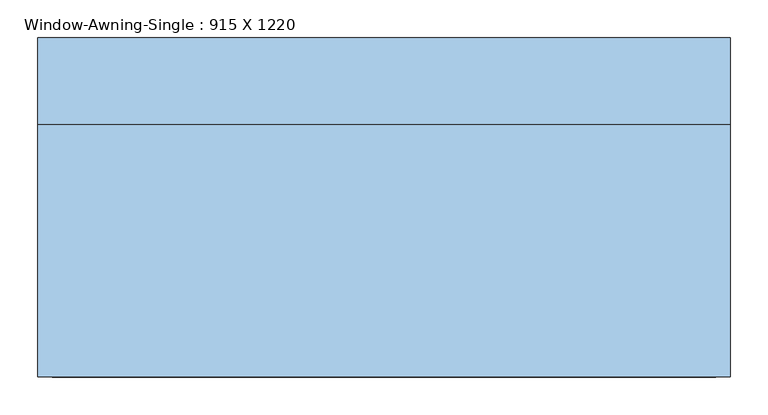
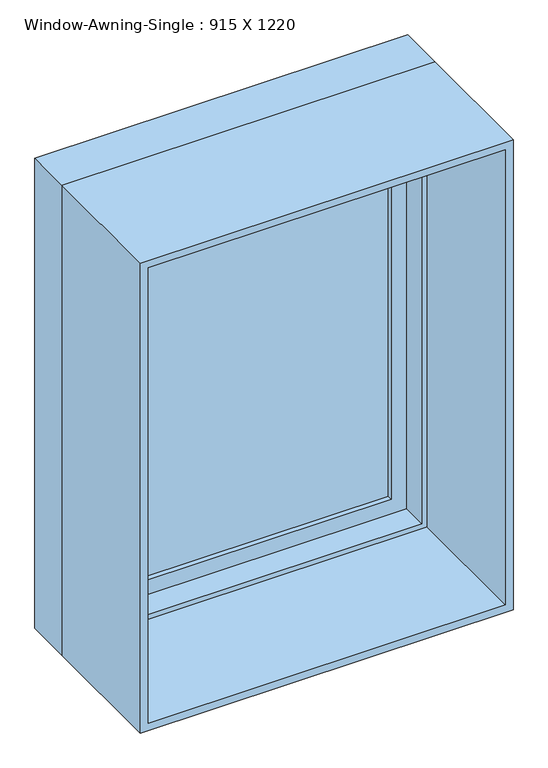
"""IFC4 building model written with IfcOpenShell, lengths in millimetres: window geometry, Window-Awning-Single : 915 X 1220."""

from ifc_helpers import new_model, si_unit, frame, origin, place, context, project, spatial, polyline, outline, extrude, faceted_brep, source, transform, mapped, element, save


def window_awning_single_915_x_1220_ba5cffbd(model_context):
    return source(origin(), model_context, "Body", "SolidModel", [
        faceted_brep([(444.8, 182.75, 927.1), (444.8, 233.55, 927.1), (-444.8, 233.55, 927.1), (-444.8, 182.75, 927.1), (425.75, 119.25, 946.15), (425.75, 182.75, 946.15), (-425.75, 182.75, 946.15), (-425.75, 119.25, 946.15), (457.5, 233.55, 914.4), (457.5, 119.25, 914.4), (-457.5, 119.25, 914.4), (-457.5, 233.55, 914.4), (-444.8, 233.55, 2121.7), (-444.8, 182.75, 2121.7), (-425.75, 182.75, 2102.65), (-425.75, 119.25, 2102.65), (-457.5, 119.25, 2134.4), (-457.5, 233.55, 2134.4), (444.8, 233.55, 2121.7), (444.8, 182.75, 2121.7), (425.75, 182.75, 2102.65), (425.75, 119.25, 2102.65), (457.5, 119.25, 2134.4), (457.5, 233.55, 2134.4)], [[[0, 1, 2, 3]], [[4, 5, 6, 7]], [[8, 9, 10, 11]], [[3, 2, 12, 13]], [[7, 6, 14, 15]], [[11, 10, 16, 17]], [[13, 12, 18, 19]], [[15, 14, 20, 21]], [[17, 16, 22, 23]], [[11, 17, 23, 8], [1, 18, 12, 2]], [[19, 18, 1, 0]], [[3, 13, 19, 0], [5, 20, 14, 6]], [[21, 20, 5, 4]], [[9, 22, 16, 10], [7, 15, 21, 4]], [[23, 22, 9, 8]]]),
        extrude(outline(polyline([(387.65, 214.5), (387.65, 208.15), (-387.65, 208.15), (-387.65, 214.5), (387.65, 214.5)])), frame((0.0, 0.0, 984.25), z_axis=(0.0, 0.0, 1.0), x_axis=(1.0, 0.0, 0.0)), (0.0, 0.0, 1.0), 1080.3),
        extrude(outline(polyline([(387.65, 201.8), (387.65, 195.45), (-387.65, 195.45), (-387.65, 201.8), (387.65, 201.8)])), frame((0.0, 0.0, 984.25), z_axis=(0.0, 0.0, 1.0), x_axis=(1.0, 0.0, 0.0)), (0.0, 0.0, 1.0), 1080.3),
        extrude(outline(polyline([(927.1, -444.8), (927.1, 444.8), (2121.7, 444.8), (2121.7, -444.8), (927.1, -444.8)]), holes=[polyline([(2064.55, -387.65), (2064.55, 387.65), (984.25, 387.65), (984.25, -387.65), (2064.55, -387.65)])]), frame((0.0, 182.75, 0.0), z_axis=(0.0, 1.0, 0.0), x_axis=(0.0, 0.0, 1.0)), (0.0, 0.0, 1.0), 44.45),
        extrude(outline(polyline([(2134.4, -457.5), (914.4, -457.5), (914.4, 457.5), (2134.4, 457.5), (2134.4, -457.5)]), holes=[polyline([(2115.35, -438.45), (2115.35, 438.45), (933.45, 438.45), (933.45, -438.45), (2115.35, -438.45)])]), frame((0.0, -214.5, 0.0), z_axis=(0.0, 1.0, 0.0), x_axis=(0.0, 0.0, 1.0)), (0.0, 0.0, 1.0), 333.75),
    ])


if __name__ == "__main__":
    model = new_model("IFC4")
    model_context = context("Model", 3, world=origin())
    ifc_project = project(units=[si_unit("LENGTHUNIT", "METRE", prefix="MILLI")], contexts=[model_context])
    site = spatial("IfcSite", under=ifc_project)
    building = spatial("IfcBuilding", under=site)
    placement = place(None, origin())
    window_awning_single_915_x_1220_shape = window_awning_single_915_x_1220_ba5cffbd(model_context)
    element("IfcWindow", 1, ObjectType="Window-Awning-Single : 915 X 1220", at=placement, inside=building, context=model_context, shape_type="MappedRepresentation", body=[
        mapped(window_awning_single_915_x_1220_shape, transform((0.0, 0.0, 0.0), x_axis=(1.0, 0.0, 0.0), y_axis=(0.0, 1.0, 0.0), z_axis=(0.0, 0.0, 1.0))),
    ])
    save(model, "model.ifc")
